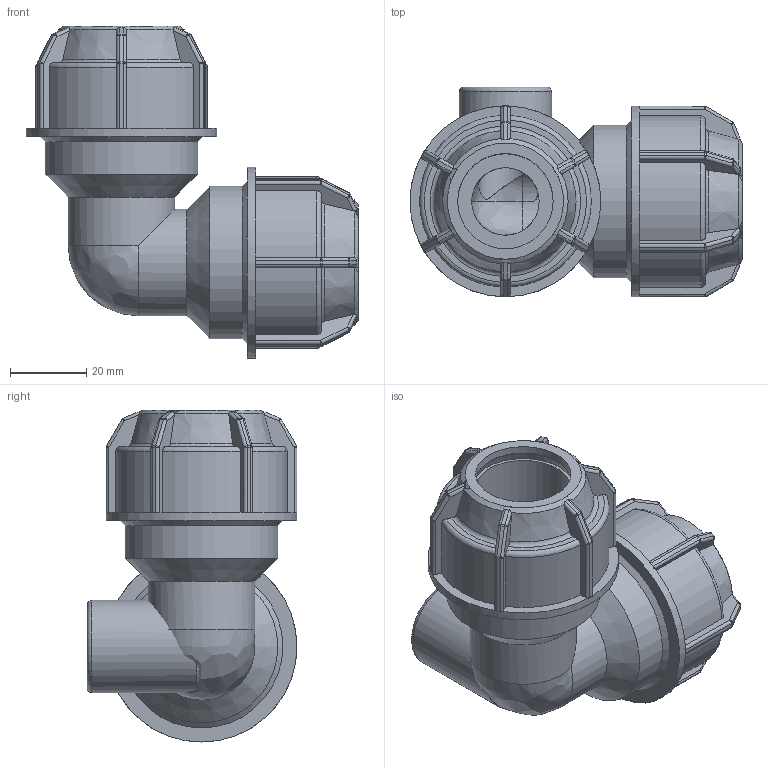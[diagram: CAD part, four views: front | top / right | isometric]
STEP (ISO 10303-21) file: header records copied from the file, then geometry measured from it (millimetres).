
FILE_DESCRIPTION(/* description */ ('PLASSON L.14 CORNER TEE ELBOW FEMALE (SILVER) 25-1/2"-25'),/* implementation_level */ '2;1');
FILE_NAME(/* name */ 'C:\Dropbox\KIMPROJECTS-Inventor\99-16-3568-Processing\Silver+MF ISRAEL\146500\146500025005.ipt.stp',/* time_stamp */ '2018-04-09T13:05:14+03:00',/* author */ ('KIM'),/* organization */ (''),/* preprocessor_version */ 'ST-DEVELOPER v15.6',/* originating_system */ 'Autodesk Inventor 2015',/* authorisation */ '');
FILE_SCHEMA (('AUTOMOTIVE_DESIGN { 1 0 10303 214 3 1 1 }'));
Length unit declared in the file: millimetre
Products named in the file (1): 146500025005
Bounding box: 87 x 55 x 87 mm (x, y, z)
Volume: 92948.4 mm3; surface area: 33272.7 mm2
Topology: 2 solids, 2 shells, 423 faces, 1003 edges, 578 vertices
Faces by surface type: plane 196, cylinder 128, sphere 48, torus 30, cone 18, bspline 3
Full cylindrical faces by diameter (mm): 13.973 x2, 17.699 x2, 18.631 x1, 24.22 x1, 25 x4, 27.947 x2, 40 x2, 50 x2
Entity records: 12483 total; most frequent: CARTESIAN_POINT 3357, DIRECTION 1912, ORIENTED_EDGE 1882, EDGE_CURVE 941, AXIS2_PLACEMENT_3D 773, VERTEX_POINT 557, EDGE_LOOP 456, FACE_OUTER_BOUND 419
